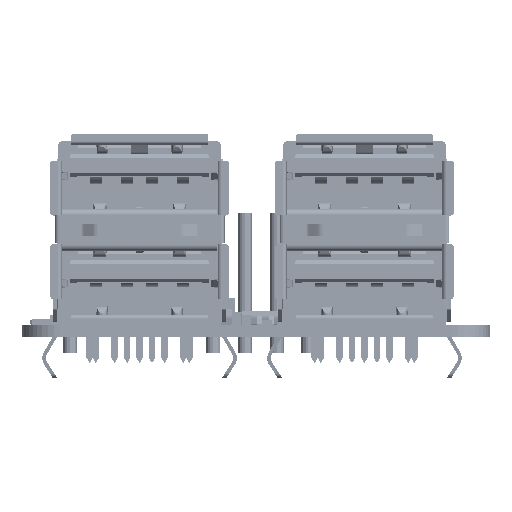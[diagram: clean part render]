
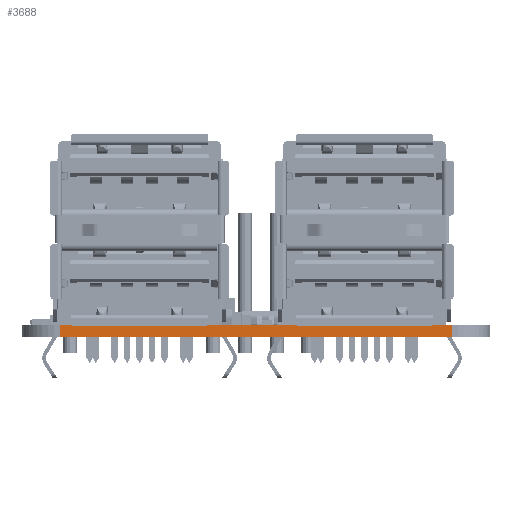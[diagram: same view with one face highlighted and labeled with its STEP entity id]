
A CAD part, left-side view. The second image highlights one B-rep face of the part: STEP entity #3688.
In plain terms, the highlighted planar face has unit normal (-1, 0, 0).
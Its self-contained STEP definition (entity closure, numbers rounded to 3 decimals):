
#479 = PLANE('',#480);
#480 = AXIS2_PLACEMENT_3D('',#481,#482,#483);
#481 = CARTESIAN_POINT('',(0.,2.04,0.));
#482 = DIRECTION('',(0.998,0.059,0.));
#483 = DIRECTION('',(0.059,-0.998,0.));
#507 = PLANE('',#508);
#508 = AXIS2_PLACEMENT_3D('',#509,#510,#511);
#509 = CARTESIAN_POINT('',(0.028,1.569,0.953));
#510 = DIRECTION('',(0.,0.,-1.));
#511 = DIRECTION('',(-1.,0.,0.));
#561 = PLANE('',#562);
#562 = AXIS2_PLACEMENT_3D('',#563,#564,#565);
#563 = CARTESIAN_POINT('',(0.028,1.569,0.));
#564 = DIRECTION('',(0.,0.,-1.));
#565 = DIRECTION('',(-1.,0.,0.));
#3580 = PLANE('',#3581);
#3581 = AXIS2_PLACEMENT_3D('',#3582,#3583,#3584);
#3582 = CARTESIAN_POINT('',(0.028,34.011,0.));
#3583 = DIRECTION('',(0.997,-0.078,0.));
#3584 = DIRECTION('',(-0.078,-0.997,0.));
#3618 = VERTEX_POINT('',#3619);
#3619 = CARTESIAN_POINT('',(-0.009,33.54,0.953)
  );
#3640 = EDGE_CURVE('',#3641,#3618,#3643,.T.);
#3641 = VERTEX_POINT('',#3642);
#3642 = CARTESIAN_POINT('',(-0.009,33.54,0.));
#3643 = SURFACE_CURVE('',#3644,(#3648,#3655),.PCURVE_S1.);
#3644 = LINE('',#3645,#3646);
#3645 = CARTESIAN_POINT('',(-0.009,33.54,0.));
#3646 = VECTOR('',#3647,1.);
#3647 = DIRECTION('',(0.,0.,1.));
#3648 = PCURVE('',#3580,#3649);
#3649 = DEFINITIONAL_REPRESENTATION('',(#3650),#3654);
#3650 = LINE('',#3651,#3652);
#3651 = CARTESIAN_POINT('',(0.472,0.));
#3652 = VECTOR('',#3653,1.);
#3653 = DIRECTION('',(0.,-1.));
#3654 = ( GEOMETRIC_REPRESENTATION_CONTEXT(2) 
PARAMETRIC_REPRESENTATION_CONTEXT() REPRESENTATION_CONTEXT('2D SPACE',''
  ) );
#3655 = PCURVE('',#3656,#3661);
#3656 = PLANE('',#3657);
#3657 = AXIS2_PLACEMENT_3D('',#3658,#3659,#3660);
#3658 = CARTESIAN_POINT('',(-0.009,33.54,0.));
#3659 = DIRECTION('',(1.,0.,0.));
#3660 = DIRECTION('',(0.,-1.,0.));
#3661 = DEFINITIONAL_REPRESENTATION('',(#3662),#3666);
#3662 = LINE('',#3663,#3664);
#3663 = CARTESIAN_POINT('',(0.,0.));
#3664 = VECTOR('',#3665,1.);
#3665 = DIRECTION('',(0.,-1.));
#3666 = ( GEOMETRIC_REPRESENTATION_CONTEXT(2) 
PARAMETRIC_REPRESENTATION_CONTEXT() REPRESENTATION_CONTEXT('2D SPACE',''
  ) );
#3688 = ADVANCED_FACE('',(#3689),#3656,.F.);
#3689 = FACE_BOUND('',#3690,.F.);
#3690 = EDGE_LOOP('',(#3691,#3692,#3715,#3738));
#3691 = ORIENTED_EDGE('',*,*,#3640,.T.);
#3692 = ORIENTED_EDGE('',*,*,#3693,.T.);
#3693 = EDGE_CURVE('',#3618,#3694,#3696,.T.);
#3694 = VERTEX_POINT('',#3695);
#3695 = CARTESIAN_POINT('',(0.,2.04,0.953));
#3696 = SURFACE_CURVE('',#3697,(#3701,#3708),.PCURVE_S1.);
#3697 = LINE('',#3698,#3699);
#3698 = CARTESIAN_POINT('',(-0.009,33.54,0.953)
  );
#3699 = VECTOR('',#3700,1.);
#3700 = DIRECTION('',(0.,-1.,0.));
#3701 = PCURVE('',#3656,#3702);
#3702 = DEFINITIONAL_REPRESENTATION('',(#3703),#3707);
#3703 = LINE('',#3704,#3705);
#3704 = CARTESIAN_POINT('',(0.,-0.953));
#3705 = VECTOR('',#3706,1.);
#3706 = DIRECTION('',(1.,0.));
#3707 = ( GEOMETRIC_REPRESENTATION_CONTEXT(2) 
PARAMETRIC_REPRESENTATION_CONTEXT() REPRESENTATION_CONTEXT('2D SPACE',''
  ) );
#3708 = PCURVE('',#507,#3709);
#3709 = DEFINITIONAL_REPRESENTATION('',(#3710),#3714);
#3710 = LINE('',#3711,#3712);
#3711 = CARTESIAN_POINT('',(0.037,31.971));
#3712 = VECTOR('',#3713,1.);
#3713 = DIRECTION('',(0.,-1.));
#3714 = ( GEOMETRIC_REPRESENTATION_CONTEXT(2) 
PARAMETRIC_REPRESENTATION_CONTEXT() REPRESENTATION_CONTEXT('2D SPACE',''
  ) );
#3715 = ORIENTED_EDGE('',*,*,#3716,.F.);
#3716 = EDGE_CURVE('',#3717,#3694,#3719,.T.);
#3717 = VERTEX_POINT('',#3718);
#3718 = CARTESIAN_POINT('',(0.,2.04,0.));
#3719 = SURFACE_CURVE('',#3720,(#3724,#3731),.PCURVE_S1.);
#3720 = LINE('',#3721,#3722);
#3721 = CARTESIAN_POINT('',(0.,2.04,0.));
#3722 = VECTOR('',#3723,1.);
#3723 = DIRECTION('',(0.,0.,1.));
#3724 = PCURVE('',#3656,#3725);
#3725 = DEFINITIONAL_REPRESENTATION('',(#3726),#3730);
#3726 = LINE('',#3727,#3728);
#3727 = CARTESIAN_POINT('',(31.5,0.));
#3728 = VECTOR('',#3729,1.);
#3729 = DIRECTION('',(0.,-1.));
#3730 = ( GEOMETRIC_REPRESENTATION_CONTEXT(2) 
PARAMETRIC_REPRESENTATION_CONTEXT() REPRESENTATION_CONTEXT('2D SPACE',''
  ) );
#3731 = PCURVE('',#479,#3732);
#3732 = DEFINITIONAL_REPRESENTATION('',(#3733),#3737);
#3733 = LINE('',#3734,#3735);
#3734 = CARTESIAN_POINT('',(0.,0.));
#3735 = VECTOR('',#3736,1.);
#3736 = DIRECTION('',(0.,-1.));
#3737 = ( GEOMETRIC_REPRESENTATION_CONTEXT(2) 
PARAMETRIC_REPRESENTATION_CONTEXT() REPRESENTATION_CONTEXT('2D SPACE',''
  ) );
#3738 = ORIENTED_EDGE('',*,*,#3739,.F.);
#3739 = EDGE_CURVE('',#3641,#3717,#3740,.T.);
#3740 = SURFACE_CURVE('',#3741,(#3745,#3752),.PCURVE_S1.);
#3741 = LINE('',#3742,#3743);
#3742 = CARTESIAN_POINT('',(-0.009,33.54,0.));
#3743 = VECTOR('',#3744,1.);
#3744 = DIRECTION('',(0.,-1.,0.));
#3745 = PCURVE('',#3656,#3746);
#3746 = DEFINITIONAL_REPRESENTATION('',(#3747),#3751);
#3747 = LINE('',#3748,#3749);
#3748 = CARTESIAN_POINT('',(0.,0.));
#3749 = VECTOR('',#3750,1.);
#3750 = DIRECTION('',(1.,0.));
#3751 = ( GEOMETRIC_REPRESENTATION_CONTEXT(2) 
PARAMETRIC_REPRESENTATION_CONTEXT() REPRESENTATION_CONTEXT('2D SPACE',''
  ) );
#3752 = PCURVE('',#561,#3753);
#3753 = DEFINITIONAL_REPRESENTATION('',(#3754),#3758);
#3754 = LINE('',#3755,#3756);
#3755 = CARTESIAN_POINT('',(0.037,31.971));
#3756 = VECTOR('',#3757,1.);
#3757 = DIRECTION('',(0.,-1.));
#3758 = ( GEOMETRIC_REPRESENTATION_CONTEXT(2) 
PARAMETRIC_REPRESENTATION_CONTEXT() REPRESENTATION_CONTEXT('2D SPACE',''
  ) );
